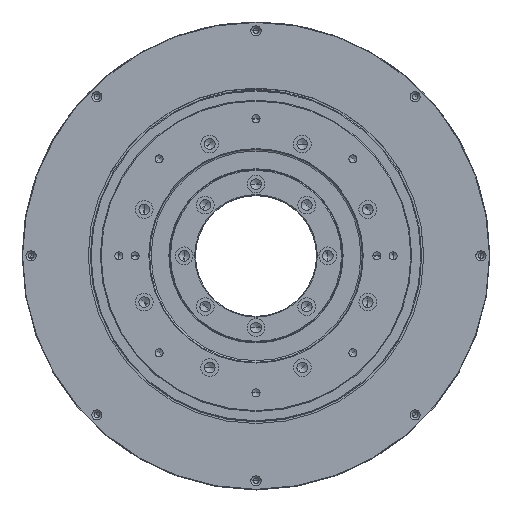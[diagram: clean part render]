
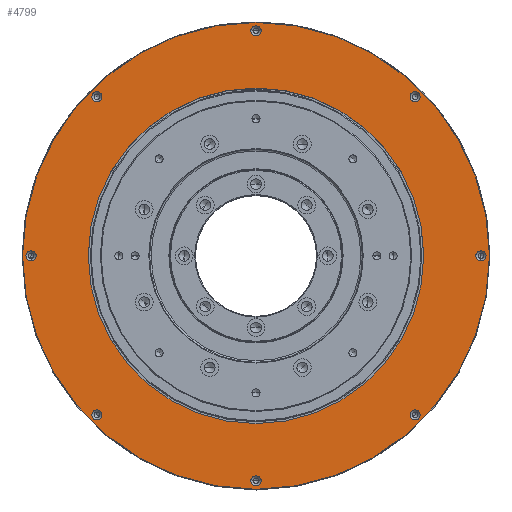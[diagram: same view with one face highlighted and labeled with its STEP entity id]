
A CAD part, top view. The second image highlights one B-rep face of the part: STEP entity #4799.
In plain terms, the highlighted planar face has unit normal (0, 0, 1).
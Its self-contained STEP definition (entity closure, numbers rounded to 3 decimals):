
#278=CARTESIAN_POINT('',(0.,0.,107.4));
#279=DIRECTION('',(0.,0.,1.));
#280=DIRECTION('',(-1.,0.,0.));
#281=AXIS2_PLACEMENT_3D('',#278,#279,#280);
#283=CARTESIAN_POINT('',(0.,0.,107.4));
#284=DIRECTION('',(0.,0.,1.));
#285=DIRECTION('',(1.,0.,0.));
#286=AXIS2_PLACEMENT_3D('',#283,#284,#285);
#288=CARTESIAN_POINT('',(-98.641,98.641,107.4));
#289=DIRECTION('',(0.,0.,-1.));
#290=DIRECTION('',(-0.707,-0.707,0.));
#291=AXIS2_PLACEMENT_3D('',#288,#289,#290);
#293=CARTESIAN_POINT('',(-98.641,98.641,107.4));
#294=DIRECTION('',(0.,0.,-1.));
#295=DIRECTION('',(0.707,0.707,0.));
#296=AXIS2_PLACEMENT_3D('',#293,#294,#295);
#298=CARTESIAN_POINT('',(-139.5,0.,107.4));
#299=DIRECTION('',(0.,0.,-1.));
#300=DIRECTION('',(0.,-1.,0.));
#301=AXIS2_PLACEMENT_3D('',#298,#299,#300);
#303=CARTESIAN_POINT('',(-139.5,0.,107.4));
#304=DIRECTION('',(0.,0.,-1.));
#305=DIRECTION('',(0.,1.,0.));
#306=AXIS2_PLACEMENT_3D('',#303,#304,#305);
#308=CARTESIAN_POINT('',(-98.641,-98.641,107.4));
#309=DIRECTION('',(0.,0.,-1.));
#310=DIRECTION('',(0.707,-0.707,0.));
#311=AXIS2_PLACEMENT_3D('',#308,#309,#310);
#313=CARTESIAN_POINT('',(-98.641,-98.641,107.4));
#314=DIRECTION('',(0.,0.,-1.));
#315=DIRECTION('',(-0.707,0.707,0.));
#316=AXIS2_PLACEMENT_3D('',#313,#314,#315);
#318=CARTESIAN_POINT('',(0.,-139.5,107.4));
#319=DIRECTION('',(0.,0.,-1.));
#320=DIRECTION('',(1.,0.,0.));
#321=AXIS2_PLACEMENT_3D('',#318,#319,#320);
#323=CARTESIAN_POINT('',(0.,-139.5,107.4));
#324=DIRECTION('',(0.,0.,-1.));
#325=DIRECTION('',(-1.,0.,0.));
#326=AXIS2_PLACEMENT_3D('',#323,#324,#325);
#328=CARTESIAN_POINT('',(98.641,-98.641,107.4));
#329=DIRECTION('',(0.,0.,-1.));
#330=DIRECTION('',(0.707,0.707,0.));
#331=AXIS2_PLACEMENT_3D('',#328,#329,#330);
#333=CARTESIAN_POINT('',(98.641,-98.641,107.4));
#334=DIRECTION('',(0.,0.,-1.));
#335=DIRECTION('',(-0.707,-0.707,0.));
#336=AXIS2_PLACEMENT_3D('',#333,#334,#335);
#338=CARTESIAN_POINT('',(139.5,0.,107.4));
#339=DIRECTION('',(0.,0.,-1.));
#340=DIRECTION('',(0.,1.,0.));
#341=AXIS2_PLACEMENT_3D('',#338,#339,#340);
#343=CARTESIAN_POINT('',(139.5,0.,107.4));
#344=DIRECTION('',(0.,0.,-1.));
#345=DIRECTION('',(0.,-1.,0.));
#346=AXIS2_PLACEMENT_3D('',#343,#344,#345);
#348=CARTESIAN_POINT('',(98.641,98.641,107.4));
#349=DIRECTION('',(0.,0.,-1.));
#350=DIRECTION('',(-0.707,0.707,0.));
#351=AXIS2_PLACEMENT_3D('',#348,#349,#350);
#353=CARTESIAN_POINT('',(98.641,98.641,107.4));
#354=DIRECTION('',(0.,0.,-1.));
#355=DIRECTION('',(0.707,-0.707,0.));
#356=AXIS2_PLACEMENT_3D('',#353,#354,#355);
#358=CARTESIAN_POINT('',(0.,139.5,107.4));
#359=DIRECTION('',(0.,0.,-1.));
#360=DIRECTION('',(-1.,0.,0.));
#361=AXIS2_PLACEMENT_3D('',#358,#359,#360);
#363=CARTESIAN_POINT('',(0.,139.5,107.4));
#364=DIRECTION('',(0.,0.,-1.));
#365=DIRECTION('',(1.,0.,0.));
#366=AXIS2_PLACEMENT_3D('',#363,#364,#365);
#368=CARTESIAN_POINT('',(0.,0.,107.4));
#369=DIRECTION('',(0.,0.,-1.));
#370=DIRECTION('',(1.,0.,0.));
#371=AXIS2_PLACEMENT_3D('',#368,#369,#370);
#373=CARTESIAN_POINT('',(0.,0.,107.4));
#374=DIRECTION('',(0.,0.,-1.));
#375=DIRECTION('',(-1.,0.,0.));
#376=AXIS2_PLACEMENT_3D('',#373,#374,#375);
#4177=CARTESIAN_POINT('',(144.75,0.,107.4));
#4179=VERTEX_POINT('',#4177);
#4180=CARTESIAN_POINT('',(-144.75,0.,107.4));
#4181=VERTEX_POINT('',#4180);
#4185=CARTESIAN_POINT('',(104.,0.,107.4));
#4187=VERTEX_POINT('',#4185);
#4188=CARTESIAN_POINT('',(-104.,0.,107.4));
#4189=VERTEX_POINT('',#4188);
#4224=CARTESIAN_POINT('',(-100.869,96.414,107.4));
#4225=CARTESIAN_POINT('',(-96.414,100.869,107.4));
#4226=VERTEX_POINT('',#4224);
#4227=VERTEX_POINT('',#4225);
#4228=CARTESIAN_POINT('',(-139.5,-3.15,107.4));
#4229=CARTESIAN_POINT('',(-139.5,3.15,107.4));
#4230=VERTEX_POINT('',#4228);
#4231=VERTEX_POINT('',#4229);
#4232=CARTESIAN_POINT('',(-96.414,-100.869,107.4));
#4233=CARTESIAN_POINT('',(-100.869,-96.414,107.4));
#4234=VERTEX_POINT('',#4232);
#4235=VERTEX_POINT('',#4233);
#4236=CARTESIAN_POINT('',(3.15,-139.5,107.4));
#4237=CARTESIAN_POINT('',(-3.15,-139.5,107.4));
#4238=VERTEX_POINT('',#4236);
#4239=VERTEX_POINT('',#4237);
#4240=CARTESIAN_POINT('',(100.869,-96.414,107.4));
#4241=CARTESIAN_POINT('',(96.414,-100.869,107.4));
#4242=VERTEX_POINT('',#4240);
#4243=VERTEX_POINT('',#4241);
#4244=CARTESIAN_POINT('',(139.5,3.15,107.4));
#4245=CARTESIAN_POINT('',(139.5,-3.15,107.4));
#4246=VERTEX_POINT('',#4244);
#4247=VERTEX_POINT('',#4245);
#4248=CARTESIAN_POINT('',(96.414,100.869,107.4));
#4249=CARTESIAN_POINT('',(100.869,96.414,107.4));
#4250=VERTEX_POINT('',#4248);
#4251=VERTEX_POINT('',#4249);
#4252=CARTESIAN_POINT('',(-3.15,139.5,107.4));
#4253=CARTESIAN_POINT('',(3.15,139.5,107.4));
#4254=VERTEX_POINT('',#4252);
#4255=VERTEX_POINT('',#4253);
#4736=CARTESIAN_POINT('',(0.,0.,107.4));
#4737=DIRECTION('',(0.,0.,1.));
#4738=DIRECTION('',(1.,0.,0.));
#4739=AXIS2_PLACEMENT_3D('',#4736,#4737,#4738);
#4740=PLANE('',#4739);
#4742=ORIENTED_EDGE('',*,*,#4741,.F.);
#4744=ORIENTED_EDGE('',*,*,#4743,.F.);
#4745=EDGE_LOOP('',(#4742,#4744));
#4746=FACE_OUTER_BOUND('',#4745,.F.);
#4748=ORIENTED_EDGE('',*,*,#4747,.F.);
#4750=ORIENTED_EDGE('',*,*,#4749,.F.);
#4751=EDGE_LOOP('',(#4748,#4750));
#4752=FACE_BOUND('',#4751,.F.);
#4754=ORIENTED_EDGE('',*,*,#4753,.F.);
#4756=ORIENTED_EDGE('',*,*,#4755,.F.);
#4757=EDGE_LOOP('',(#4754,#4756));
#4758=FACE_BOUND('',#4757,.F.);
#4760=ORIENTED_EDGE('',*,*,#4759,.F.);
#4762=ORIENTED_EDGE('',*,*,#4761,.F.);
#4763=EDGE_LOOP('',(#4760,#4762));
#4764=FACE_BOUND('',#4763,.F.);
#4766=ORIENTED_EDGE('',*,*,#4765,.F.);
#4768=ORIENTED_EDGE('',*,*,#4767,.F.);
#4769=EDGE_LOOP('',(#4766,#4768));
#4770=FACE_BOUND('',#4769,.F.);
#4772=ORIENTED_EDGE('',*,*,#4771,.F.);
#4774=ORIENTED_EDGE('',*,*,#4773,.F.);
#4775=EDGE_LOOP('',(#4772,#4774));
#4776=FACE_BOUND('',#4775,.F.);
#4778=ORIENTED_EDGE('',*,*,#4777,.F.);
#4780=ORIENTED_EDGE('',*,*,#4779,.F.);
#4781=EDGE_LOOP('',(#4778,#4780));
#4782=FACE_BOUND('',#4781,.F.);
#4784=ORIENTED_EDGE('',*,*,#4783,.F.);
#4786=ORIENTED_EDGE('',*,*,#4785,.F.);
#4787=EDGE_LOOP('',(#4784,#4786));
#4788=FACE_BOUND('',#4787,.F.);
#4789=ORIENTED_EDGE('',*,*,#4729,.F.);
#4790=ORIENTED_EDGE('',*,*,#4663,.F.);
#4791=EDGE_LOOP('',(#4789,#4790));
#4792=FACE_BOUND('',#4791,.F.);
#4794=ORIENTED_EDGE('',*,*,#4793,.F.);
#4796=ORIENTED_EDGE('',*,*,#4795,.F.);
#4797=EDGE_LOOP('',(#4794,#4796));
#4798=FACE_BOUND('',#4797,.F.);
#4799=ADVANCED_FACE('',(#4746,#4752,#4758,#4764,#4770,#4776,#4782,#4788,#4792,
#4798),#4740,.T.);
#282=CIRCLE('',#281,144.75);
#287=CIRCLE('',#286,144.75);
#292=CIRCLE('',#291,3.15);
#297=CIRCLE('',#296,3.15);
#302=CIRCLE('',#301,3.15);
#307=CIRCLE('',#306,3.15);
#312=CIRCLE('',#311,3.15);
#317=CIRCLE('',#316,3.15);
#322=CIRCLE('',#321,3.15);
#327=CIRCLE('',#326,3.15);
#332=CIRCLE('',#331,3.15);
#337=CIRCLE('',#336,3.15);
#342=CIRCLE('',#341,3.15);
#347=CIRCLE('',#346,3.15);
#352=CIRCLE('',#351,3.15);
#357=CIRCLE('',#356,3.15);
#362=CIRCLE('',#361,3.15);
#367=CIRCLE('',#366,3.15);
#372=CIRCLE('',#371,104.);
#377=CIRCLE('',#376,104.);
#4663=EDGE_CURVE('',#4255,#4254,#367,.T.);
#4729=EDGE_CURVE('',#4254,#4255,#362,.T.);
#4741=EDGE_CURVE('',#4181,#4179,#282,.T.);
#4743=EDGE_CURVE('',#4179,#4181,#287,.T.);
#4747=EDGE_CURVE('',#4226,#4227,#292,.T.);
#4749=EDGE_CURVE('',#4227,#4226,#297,.T.);
#4753=EDGE_CURVE('',#4230,#4231,#302,.T.);
#4755=EDGE_CURVE('',#4231,#4230,#307,.T.);
#4759=EDGE_CURVE('',#4234,#4235,#312,.T.);
#4761=EDGE_CURVE('',#4235,#4234,#317,.T.);
#4765=EDGE_CURVE('',#4238,#4239,#322,.T.);
#4767=EDGE_CURVE('',#4239,#4238,#327,.T.);
#4771=EDGE_CURVE('',#4242,#4243,#332,.T.);
#4773=EDGE_CURVE('',#4243,#4242,#337,.T.);
#4777=EDGE_CURVE('',#4246,#4247,#342,.T.);
#4779=EDGE_CURVE('',#4247,#4246,#347,.T.);
#4783=EDGE_CURVE('',#4250,#4251,#352,.T.);
#4785=EDGE_CURVE('',#4251,#4250,#357,.T.);
#4793=EDGE_CURVE('',#4187,#4189,#372,.T.);
#4795=EDGE_CURVE('',#4189,#4187,#377,.T.);
